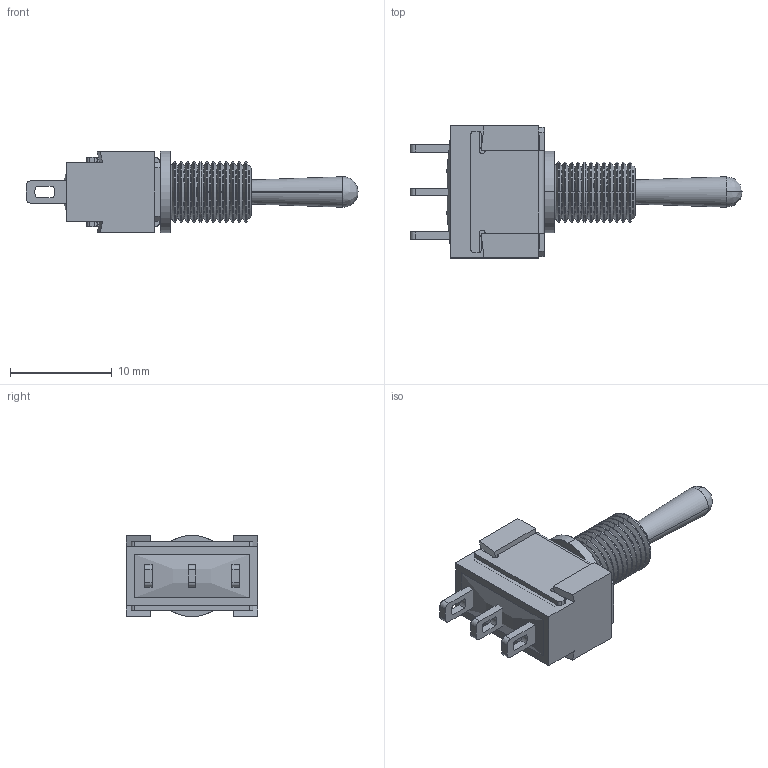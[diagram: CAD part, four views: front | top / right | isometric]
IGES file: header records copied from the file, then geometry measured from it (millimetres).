
Start section: SolidWorks IGES file using analytic representation for surfaces
Global section: file name: 8HC:\Documents and Settings\Administrator\桌面\光之子\MTA-106G成品.IGS; native system: SolidWorks 2007; preprocessor: SolidWorks 2007; author: Administrator; date: 100517.135857; units: millimetre
Bounding box: 32.7 x 13 x 8 mm (x, y, z)
Surface area: 2577.8 mm2 (no closed solid volume)
Topology: 0 solids, 0 shells, 466 faces, 3357 edges, 3351 vertices
Faces by surface type: revolution 250, bspline 216
